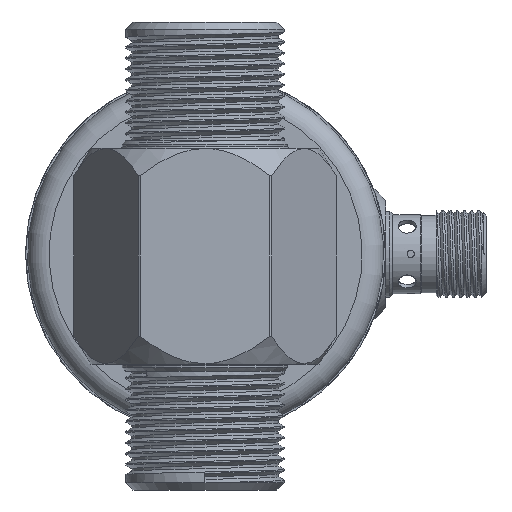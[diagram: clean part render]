
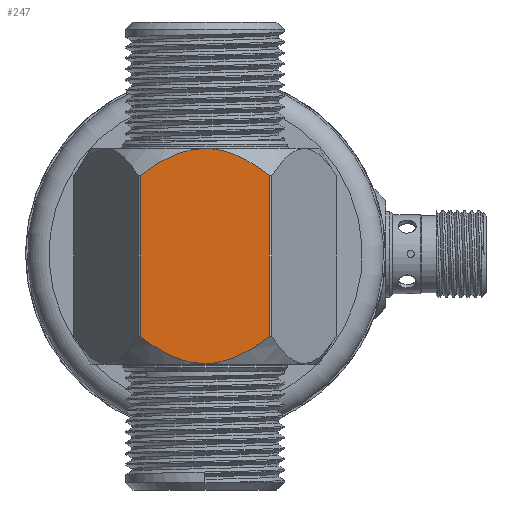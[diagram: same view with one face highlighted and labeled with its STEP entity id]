
A CAD part, front view. The second image highlights one B-rep face of the part: STEP entity #247.
In plain terms, the highlighted planar face has unit normal (0, -1, 0) as drawn and (1, 0, 0) by its records, which use the part's own axes.
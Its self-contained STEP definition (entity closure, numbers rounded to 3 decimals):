
#247 = ADVANCED_FACE ( 'NONE', ( #6926 ), #21277, .F. ) ;
#422 = DIRECTION ( 'NONE',  ( -1., 0., 0. ) ) ;
#472 = CARTESIAN_POINT ( 'NONE',  ( 15.9, 1.651, -14.807 ) ) ;
#602 = CARTESIAN_POINT ( 'NONE',  ( 15.9, -5.521, -13.451 ) ) ;
#860 = CARTESIAN_POINT ( 'NONE',  ( 15.9, -1.651, 14.807 ) ) ;
#1123 = CARTESIAN_POINT ( 'NONE',  ( 15.9, -7.654, 12.159 ) ) ;
#2311 = CARTESIAN_POINT ( 'NONE',  ( 15.9, -6.266, 13.037 ) ) ;
#2558 = CARTESIAN_POINT ( 'NONE',  ( 15.9, 5.544, -13.439 ) ) ;
#2866 = DIRECTION ( 'NONE',  ( 0., 0., -1. ) ) ;
#2934 = CARTESIAN_POINT ( 'NONE',  ( 15.9, -0.414, 14.935 ) ) ;
#3478 = CARTESIAN_POINT ( 'NONE',  ( 15.9, 8.958, 11.176 ) ) ;
#3698 = VERTEX_POINT ( 'NONE', #27110 ) ;
#3939 = LINE ( 'NONE', #4213, #22367 ) ;
#4190 = B_SPLINE_CURVE_WITH_KNOTS ( 'NONE', 3,
 ( #7246, #24080, #23950, #21594, #15714, #2558, #17803, #15180, #13499, #6975, #472, #9340, #6845, #21726, #26308, #6717, #23687, #15309, #602, #15439, #24221, #23818, #13108, #17400 ),
 .UNSPECIFIED., .F., .F.,
 ( 4, 2, 2, 2, 2, 2, 2, 2, 2, 2, 2, 4 ),
 ( 0.025, 0.028, 0.029, 0.03, 0.033, 0.034, 0.035, 0.038, 0.04, 0.041, 0.042, 0.045 ),
 .UNSPECIFIED. ) ;
#4213 = CARTESIAN_POINT ( 'NONE',  ( 15.9, -8.958, -33. ) ) ;
#4874 = CARTESIAN_POINT ( 'NONE',  ( 15.9, 5.154, 13.639 ) ) ;
#4948 = CARTESIAN_POINT ( 'NONE',  ( 15.9, 8.958, -33. ) ) ;
#5013 = CARTESIAN_POINT ( 'NONE',  ( 15.9, 6.243, 13.05 ) ) ;
#6717 = CARTESIAN_POINT ( 'NONE',  ( 15.9, -3.256, -14.439 ) ) ;
#6845 = CARTESIAN_POINT ( 'NONE',  ( 15.9, 0.414, -14.935 ) ) ;
#6926 = FACE_OUTER_BOUND ( 'NONE', #16108, .T. ) ;
#6975 = CARTESIAN_POINT ( 'NONE',  ( 15.9, 2.063, -14.73 ) ) ;
#7100 = CARTESIAN_POINT ( 'NONE',  ( 15.9, 5.521, 13.451 ) ) ;
#7246 = CARTESIAN_POINT ( 'NONE',  ( 15.9, 8.958, -11.176 ) ) ;
#7634 = VECTOR ( 'NONE', #2866, 1000. ) ;
#9194 = CARTESIAN_POINT ( 'NONE',  ( 15.9, -3.268, 14.435 ) ) ;
#9327 = CARTESIAN_POINT ( 'NONE',  ( 15.9, 3.256, 14.439 ) ) ;
#9340 = CARTESIAN_POINT ( 'NONE',  ( 15.9, 0.825, -14.91 ) ) ;
#10094 = B_SPLINE_CURVE_WITH_KNOTS ( 'NONE', 3,
 ( #26563, #23939, #1123, #18069, #2311, #10784, #15562, #19758, #9194, #11422, #860, #17652, #2934, #26160, #19256, #9327, #15427, #4874, #7100, #5013, #15699, #22534, #16534, #3478 ),
 .UNSPECIFIED., .F., .F.,
 ( 4, 2, 2, 2, 2, 2, 2, 2, 2, 2, 2, 4 ),
 ( 0.025, 0.028, 0.029, 0.03, 0.033, 0.034, 0.035, 0.038, 0.04, 0.041, 0.042, 0.045 ),
 .UNSPECIFIED. ) ;
#10784 = CARTESIAN_POINT ( 'NONE',  ( 15.9, -5.544, 13.439 ) ) ;
#10985 = CARTESIAN_POINT ( 'NONE',  ( 15.9, 8.958, 11.176 ) ) ;
#11422 = CARTESIAN_POINT ( 'NONE',  ( 15.9, -2.063, 14.73 ) ) ;
#11721 = CARTESIAN_POINT ( 'NONE',  ( 15.9, -8.958, -11.176 ) ) ;
#12440 = ORIENTED_EDGE ( 'NONE', *, *, #26422, .F. ) ;
#12788 = DIRECTION ( 'NONE',  ( 0., -1., 0. ) ) ;
#13108 = CARTESIAN_POINT ( 'NONE',  ( 15.9, -8.314, -11.682 ) ) ;
#13499 = CARTESIAN_POINT ( 'NONE',  ( 15.9, 3.268, -14.435 ) ) ;
#14040 = ORIENTED_EDGE ( 'NONE', *, *, #14524, .F. ) ;
#14524 = EDGE_CURVE ( 'NONE', #17574, #20608, #3939, .T. ) ;
#15180 = CARTESIAN_POINT ( 'NONE',  ( 15.9, 4.042, -14.152 ) ) ;
#15309 = CARTESIAN_POINT ( 'NONE',  ( 15.9, -5.154, -13.639 ) ) ;
#15427 = CARTESIAN_POINT ( 'NONE',  ( 15.9, 4.032, 14.155 ) ) ;
#15439 = CARTESIAN_POINT ( 'NONE',  ( 15.9, -6.243, -13.05 ) ) ;
#15562 = CARTESIAN_POINT ( 'NONE',  ( 15.9, -5.172, 13.63 ) ) ;
#15699 = CARTESIAN_POINT ( 'NONE',  ( 15.9, 6.6, 12.836 ) ) ;
#15714 = CARTESIAN_POINT ( 'NONE',  ( 15.9, 6.266, -13.037 ) ) ;
#16028 = CARTESIAN_POINT ( 'NONE',  ( 15.9, -8.958, 11.176 ) ) ;
#16108 = EDGE_LOOP ( 'NONE', ( #14040, #20257, #22552, #12440 ) ) ;
#16534 = CARTESIAN_POINT ( 'NONE',  ( 15.9, 8.314, 11.682 ) ) ;
#17400 = CARTESIAN_POINT ( 'NONE',  ( 15.9, -8.958, -11.176 ) ) ;
#17574 = VERTEX_POINT ( 'NONE', #11721 ) ;
#17652 = CARTESIAN_POINT ( 'NONE',  ( 15.9, -0.825, 14.91 ) ) ;
#17803 = CARTESIAN_POINT ( 'NONE',  ( 15.9, 5.172, -13.63 ) ) ;
#18069 = CARTESIAN_POINT ( 'NONE',  ( 15.9, -6.618, 12.824 ) ) ;
#18529 = DIRECTION ( 'NONE',  ( 0., 0., 1. ) ) ;
#19176 = CARTESIAN_POINT ( 'NONE',  ( 15.9, -9.18, 15. ) ) ;
#19256 = CARTESIAN_POINT ( 'NONE',  ( 15.9, 1.634, 14.834 ) ) ;
#19758 = CARTESIAN_POINT ( 'NONE',  ( 15.9, -4.042, 14.152 ) ) ;
#19833 = LINE ( 'NONE', #4948, #7634 ) ;
#20257 = ORIENTED_EDGE ( 'NONE', *, *, #23828, .F. ) ;
#20608 = VERTEX_POINT ( 'NONE', #16028 ) ;
#21277 = PLANE ( 'NONE',  #23401 ) ;
#21594 = CARTESIAN_POINT ( 'NONE',  ( 15.9, 6.618, -12.824 ) ) ;
#21726 = CARTESIAN_POINT ( 'NONE',  ( 15.9, -0.818, -14.936 ) ) ;
#22367 = VECTOR ( 'NONE', #18529, 1000. ) ;
#22534 = CARTESIAN_POINT ( 'NONE',  ( 15.9, 7.647, 12.165 ) ) ;
#22552 = ORIENTED_EDGE ( 'NONE', *, *, #25901, .F. ) ;
#23401 = AXIS2_PLACEMENT_3D ( 'NONE', #19176, #422, #12788 ) ;
#23687 = CARTESIAN_POINT ( 'NONE',  ( 15.9, -4.032, -14.155 ) ) ;
#23818 = CARTESIAN_POINT ( 'NONE',  ( 15.9, -7.647, -12.165 ) ) ;
#23828 = EDGE_CURVE ( 'NONE', #3698, #17574, #4190, .T. ) ;
#23939 = CARTESIAN_POINT ( 'NONE',  ( 15.9, -8.316, 11.68 ) ) ;
#23950 = CARTESIAN_POINT ( 'NONE',  ( 15.9, 7.654, -12.159 ) ) ;
#24080 = CARTESIAN_POINT ( 'NONE',  ( 15.9, 8.316, -11.68 ) ) ;
#24221 = CARTESIAN_POINT ( 'NONE',  ( 15.9, -6.6, -12.836 ) ) ;
#24619 = VERTEX_POINT ( 'NONE', #10985 ) ;
#25901 = EDGE_CURVE ( 'NONE', #24619, #3698, #19833, .T. ) ;
#26160 = CARTESIAN_POINT ( 'NONE',  ( 15.9, 0.818, 14.936 ) ) ;
#26308 = CARTESIAN_POINT ( 'NONE',  ( 15.9, -1.634, -14.834 ) ) ;
#26422 = EDGE_CURVE ( 'NONE', #20608, #24619, #10094, .T. ) ;
#26563 = CARTESIAN_POINT ( 'NONE',  ( 15.9, -8.958, 11.176 ) ) ;
#27110 = CARTESIAN_POINT ( 'NONE',  ( 15.9, 8.958, -11.176 ) ) ;
